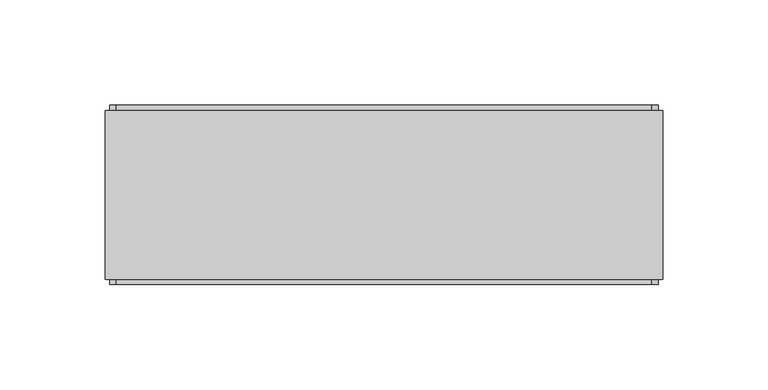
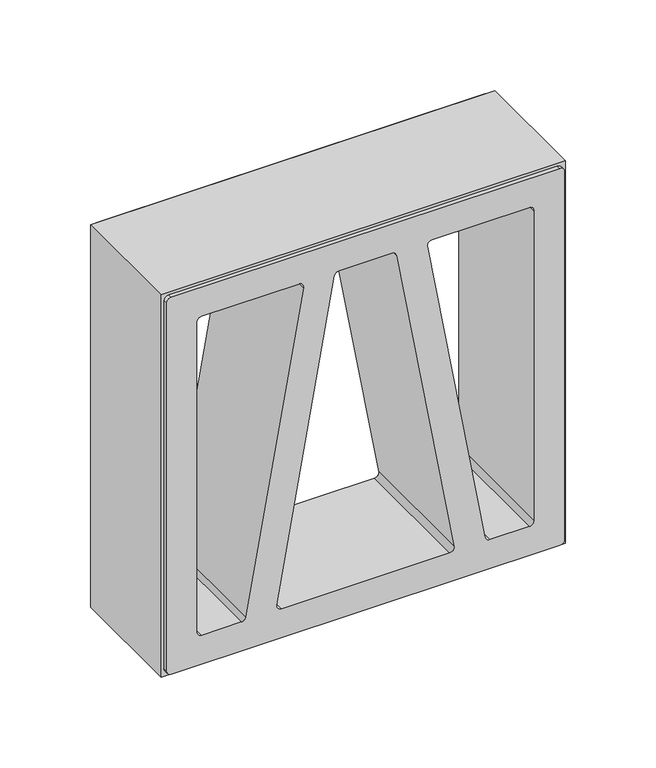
"""IFC4 building model written with IfcOpenShell, lengths in millimetres: plate geometry, PORTOBELLO - STUDIO CRAFT 3 26X26 (PAINEL CORTINA) : STUDIO CRAFT 3."""

from ifc_helpers import new_model, si_unit, point, frame, frame_2d, origin, place, context, project, spatial, polyline, circle_curve, trimmed, segment, composite_curve, outline, extrude, source, transform, mapped, element, save


def plate_dd80494e(model_context):
    return source(origin(), model_context, "Body", "SweptSolid", [
        extrude(outline(composite_curve([segment(polyline([(259.0, -130.0), (5.0, -130.0)]), True, "CONTINUOUS"), segment(trimmed(circle_curve(frame_2d((5.0, -127.0)), 3.0), [point((5.0, -130.0))], [point((2.0, -127.0))], False, "CARTESIAN"), True, "CONTINUOUS"), segment(polyline([(2.0, -127.0), (2.0, 127.0)]), True, "CONTINUOUS"), segment(trimmed(circle_curve(frame_2d((5.0, 127.0)), 3.0), [point((2.0, 127.0))], [point((5.0, 130.0))], False, "CARTESIAN"), True, "CONTINUOUS"), segment(polyline([(5.0, 130.0), (259.0, 130.0)]), True, "CONTINUOUS"), segment(trimmed(circle_curve(frame_2d((259.0, 127.0)), 3.0), [point((259.0, 130.0))], [point((262.0, 127.0))], False, "CARTESIAN"), True, "CONTINUOUS"), segment(polyline([(262.0, 127.0), (262.0, -127.0)]), True, "CONTINUOUS"), segment(trimmed(circle_curve(frame_2d((259.0, -127.0)), 3.0), [point((262.0, -127.0))], [point((259.0, -130.0))], False, "CARTESIAN"), True, "CONTINUOUS")], self_intersect=False), holes=[composite_curve([segment(polyline([(22.0, -81.3092346), (22.0, -107.0)]), True, "CONTINUOUS"), segment(trimmed(circle_curve(frame_2d((25.0, -107.0)), 3.0), [point((22.0, -107.0))], [point((25.0, -110.0))], True, "CARTESIAN"), True, "CONTINUOUS"), segment(polyline([(25.0, -110.0), (239.0, -110.0)]), True, "CONTINUOUS"), segment(trimmed(circle_curve(frame_2d((239.0, -107.0)), 3.0), [point((239.0, -110.0))], [point((242.0, -107.0))], True, "CARTESIAN"), True, "CONTINUOUS"), segment(polyline([(242.0, -107.0), (242.0, -43.5752608)]), True, "CONTINUOUS"), segment(trimmed(circle_curve(frame_2d((239.0, -43.5752608)), 3.0), [point((242.0, -43.5752608))], [point((238.4790555, -40.6208375))], True, "CARTESIAN"), True, "CONTINUOUS"), segment(polyline([(238.4790555, -40.6208375), (24.4790555, -78.3548114)]), True, "CONTINUOUS"), segment(trimmed(circle_curve(frame_2d((25.0, -81.3092346)), 3.0), [point((24.4790555, -78.3548114))], [point((22.0, -81.3092346))], True, "CARTESIAN"), True, "CONTINUOUS")], self_intersect=False), composite_curve([segment(polyline([(242.0, 43.5752608), (242.0, 107.0)]), True, "CONTINUOUS"), segment(trimmed(circle_curve(frame_2d((239.0, 107.0)), 3.0), [point((242.0, 107.0))], [point((239.0, 110.0))], True, "CARTESIAN"), True, "CONTINUOUS"), segment(polyline([(239.0, 110.0), (25.0, 110.0)]), True, "CONTINUOUS"), segment(trimmed(circle_curve(frame_2d((25.0, 107.0)), 3.0), [point((25.0, 110.0))], [point((22.0, 107.0))], True, "CARTESIAN"), True, "CONTINUOUS"), segment(polyline([(22.0, 107.0), (22.0, 81.3092346)]), True, "CONTINUOUS"), segment(trimmed(circle_curve(frame_2d((25.0, 81.3092346)), 3.0), [point((22.0, 81.3092346))], [point((24.4790555, 78.3548114))], True, "CARTESIAN"), True, "CONTINUOUS"), segment(polyline([(24.4790555, 78.3548114), (238.4790555, 40.6208375)]), True, "CONTINUOUS"), segment(trimmed(circle_curve(frame_2d((239.0, 43.5752608)), 3.0), [point((238.4790555, 40.6208375))], [point((242.0, 43.5752608))], True, "CARTESIAN"), True, "CONTINUOUS")], self_intersect=False), composite_curve([segment(trimmed(circle_curve(frame_2d((25.0, 54.9081427)), 3.0), [point((25.5209445, 57.862566))], [point((22.0, 54.9081427))], True, "CARTESIAN"), True, "CONTINUOUS"), segment(polyline([(22.0, 54.9081427), (22.0, -54.9081427)]), True, "CONTINUOUS"), segment(trimmed(circle_curve(frame_2d((25.0, -54.9081427)), 3.0), [point((22.0, -54.9081427))], [point((25.5209445, -57.862566))], True, "CARTESIAN"), True, "CONTINUOUS"), segment(polyline([(25.5209445, -57.862566), (239.5209445, -20.1285921)]), True, "CONTINUOUS"), segment(trimmed(circle_curve(frame_2d((239.0, -17.1741689)), 3.0), [point((239.5209445, -20.1285921))], [point((242.0, -17.1741689))], True, "CARTESIAN"), True, "CONTINUOUS"), segment(polyline([(242.0, -17.1741689), (242.0, 17.1741689)]), True, "CONTINUOUS"), segment(trimmed(circle_curve(frame_2d((239.0, 17.1741689)), 3.0), [point((242.0, 17.1741689))], [point((239.5209445, 20.1285921))], True, "CARTESIAN"), True, "CONTINUOUS"), segment(polyline([(239.5209445, 20.1285921), (25.5209445, 57.862566)]), True, "CONTINUOUS")], self_intersect=False)]), frame((0.0, -42.5, 0.0), z_axis=(0.0, 1.0, 0.0), x_axis=(0.0, 0.0, 1.0)), (0.0, 0.0, 1.0), 85.0),
        extrude(outline(polyline([(264.0, -132.0), (0.0, -132.0), (0.0, 132.0), (264.0, 132.0), (264.0, -132.0)]), holes=[composite_curve([segment(trimmed(circle_curve(frame_2d((5.0, -127.0)), 3.0), [point((2.0, -127.0))], [point((5.0, -130.0))], True, "CARTESIAN"), True, "CONTINUOUS"), segment(polyline([(5.0, -130.0), (259.0, -130.0)]), True, "CONTINUOUS"), segment(trimmed(circle_curve(frame_2d((259.0, -127.0)), 3.0), [point((259.0, -130.0))], [point((262.0, -127.0))], True, "CARTESIAN"), True, "CONTINUOUS"), segment(polyline([(262.0, -127.0), (262.0, 127.0)]), True, "CONTINUOUS"), segment(trimmed(circle_curve(frame_2d((259.0, 127.0)), 3.0), [point((262.0, 127.0))], [point((259.0, 130.0))], True, "CARTESIAN"), True, "CONTINUOUS"), segment(polyline([(259.0, 130.0), (5.0, 130.0)]), True, "CONTINUOUS"), segment(trimmed(circle_curve(frame_2d((5.0, 127.0)), 3.0), [point((5.0, 130.0))], [point((2.0, 127.0))], True, "CARTESIAN"), True, "CONTINUOUS"), segment(polyline([(2.0, 127.0), (2.0, -127.0)]), True, "CONTINUOUS")], self_intersect=False)]), frame((0.0, -40.0, 0.0), z_axis=(0.0, 1.0, 0.0), x_axis=(0.0, 0.0, 1.0)), (0.0, 0.0, 1.0), 80.0),
    ])


if __name__ == "__main__":
    model = new_model("IFC4")
    model_context = context("Model", 3, world=origin())
    ifc_project = project(units=[si_unit("LENGTHUNIT", "METRE", prefix="MILLI")], contexts=[model_context])
    site = spatial("IfcSite", under=ifc_project)
    building = spatial("IfcBuilding", under=site)
    placement = place(None, origin())
    plate_shape = plate_dd80494e(model_context)
    element("IfcPlate", 1, ObjectType="PORTOBELLO - STUDIO CRAFT 3 26X26 (PAINEL CORTINA) : STUDIO CRAFT 3", at=placement, inside=building, context=model_context, shape_type="MappedRepresentation", body=[
        mapped(plate_shape, transform((0.0, 0.0, 0.0), x_axis=(1.0, 0.0, 0.0), y_axis=(0.0, 1.0, 0.0), z_axis=(0.0, 0.0, 1.0))),
    ])
    save(model, "model.ifc")
